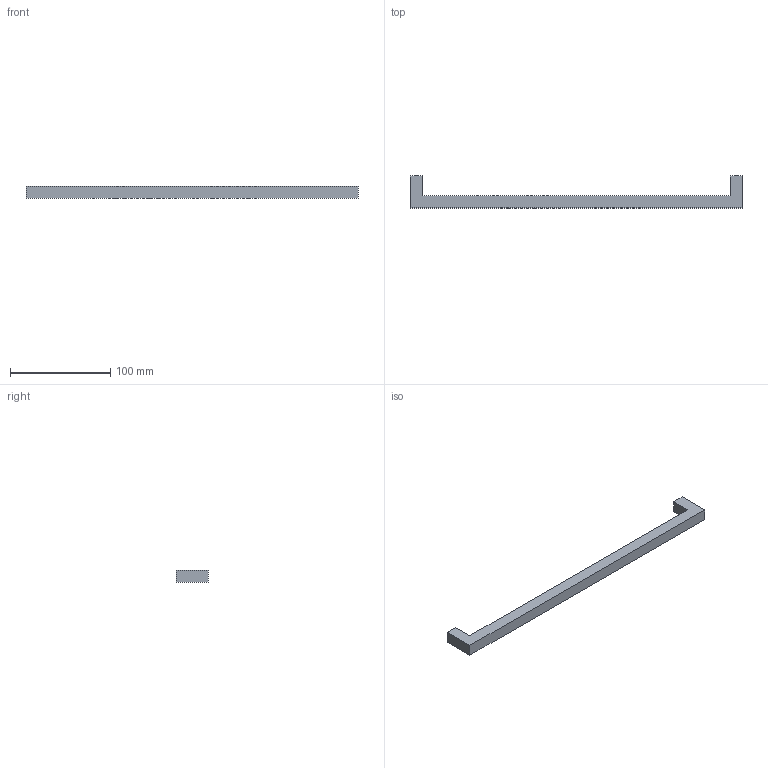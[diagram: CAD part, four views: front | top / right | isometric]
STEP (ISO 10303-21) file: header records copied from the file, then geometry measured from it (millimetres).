
FILE_DESCRIPTION( ( 'STEP AP214' ), '1' );
FILE_NAME( 'C:/Users/kulkarni/Desktop/Apurva/2015/Prodecor_2016/Cadfiles/same as files/Anzio/9207349.stp', ' ', ( ' ' ), ( ' ' ), 'PSStep 15.0.47', 'PARTsolutions', ' ' );
FILE_SCHEMA( ( 'AUTOMOTIVE_DESIGN { 1 0 10303 214 1 1 1 1 }' ) );
Length unit declared in the file: millimetre
Products named in the file (1): _9207349
Bounding box: 332 x 32 x 12 mm (x, y, z)
Volume: 53316.7 mm3; surface area: 18395.3 mm2
Topology: 1 solids, 1 shells, 14 faces, 30 edges, 20 vertices
Faces by surface type: plane 12, cylinder 2
Full cylindrical faces by diameter (mm): 4 x2
Entity records: 496 total; most frequent: CARTESIAN_POINT 63, DIRECTION 62, ORIENTED_EDGE 56, EDGE_CURVE 28, LINE 24, VECTOR 24, VERTEX_POINT 20, AXIS2_PLACEMENT_3D 19
